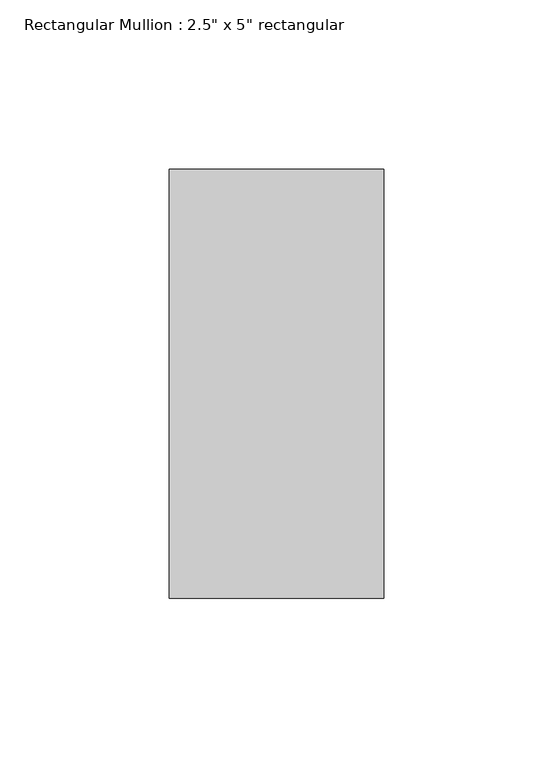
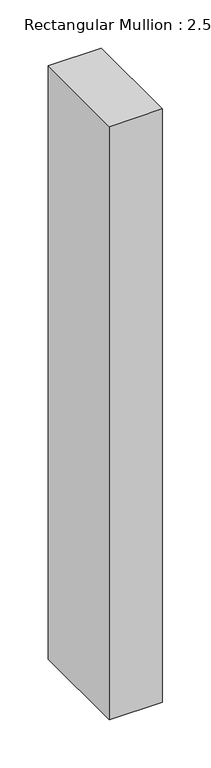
"""IFC4 building model written with IfcOpenShell, lengths in millimetres: member geometry."""

from ifc_helpers import new_model, si_unit, frame, origin, place, context, project, spatial, polyline, outline, extrude, source, transform, mapped, element, save


def member_2adbf4d9(model_context):
    return source(origin(), model_context, "Body", "SweptSolid", [
        extrude(outline(polyline([(0.0, 63.5), (0.0, -63.5), (-63.5, -63.5), (-63.5, 63.5), (0.0, 63.5)])), frame((0.0, 0.0, -751.5141945), z_axis=(0.0, 0.0, 1.0), x_axis=(1.0, 0.0, 0.0)), (0.0, 0.0, 1.0), 751.5141945),
    ])


if __name__ == "__main__":
    model = new_model("IFC4")
    model_context = context("Model", 3, world=origin())
    ifc_project = project(units=[si_unit("LENGTHUNIT", "METRE", prefix="MILLI")], contexts=[model_context])
    site = spatial("IfcSite", under=ifc_project)
    building = spatial("IfcBuilding", under=site)
    placement = place(None, origin())
    member_shape = member_2adbf4d9(model_context)
    element("IfcMember", 1, ObjectType="Rectangular Mullion : 2.5\" x 5\" rectangular", at=placement, inside=building, context=model_context, shape_type="MappedRepresentation", body=[
        mapped(member_shape, transform((0.0, 0.0, 0.0), x_axis=(1.0, 0.0, 0.0), y_axis=(0.0, 1.0, 0.0), z_axis=(0.0, 0.0, 1.0))),
    ])
    save(model, "model.ifc")
